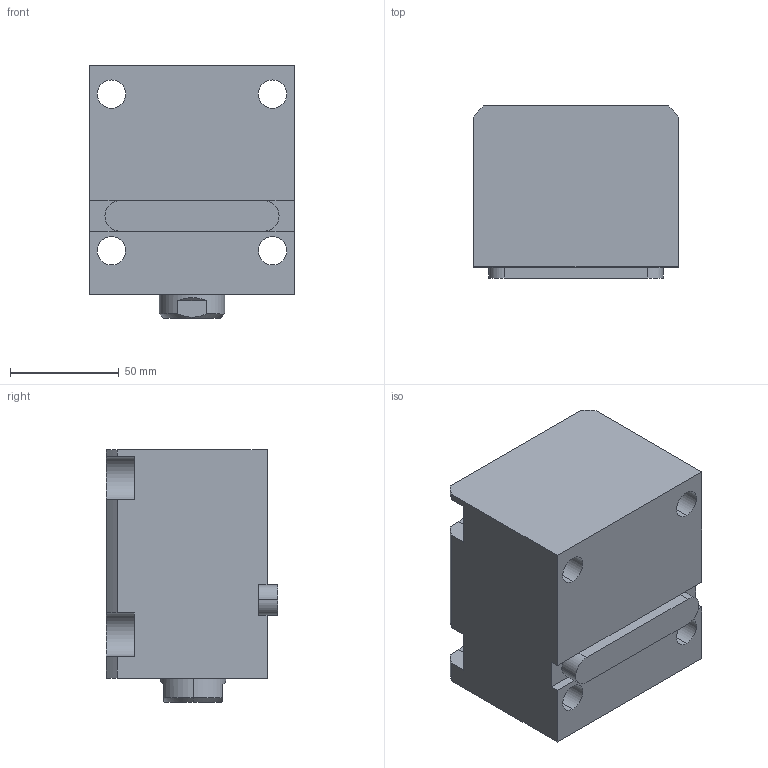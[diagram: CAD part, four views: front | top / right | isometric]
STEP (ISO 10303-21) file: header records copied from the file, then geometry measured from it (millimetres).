
FILE_DESCRIPTION (( 'STEP AP203' ), '1' );
FILE_NAME ('CHTB-LA50-45N.STEP', '2018-05-18T01:29:49', ( '' ), ( '' ), 'SwSTEP 2.0', 'SolidWorks 2015', '' );
FILE_SCHEMA (( 'CONFIG_CONTROL_DESIGN' ));
Length unit declared in the file: millimetre
Products named in the file (4): 活塞杆LA50-45N; CHTM-SDMA50QG; 掛极LA50-45N; CHTB-LA50-45N
Assembly tree (3 placements, depth 2):
  CHTB-LA50-45N
    掛极LA50-45N
    活塞杆LA50-45N
    CHTM-SDMA50QG
Bounding box: 94 x 79 x 116 mm (x, y, z)
Volume: 617953.9 mm3; surface area: 109789.5 mm2
Topology: 3 solids, 3 shells, 202 faces, 542 edges, 358 vertices
Faces by surface type: cylinder 96, plane 53, cone 23, torus 16, bspline 14
Entity records: 11255 total; most frequent: CARTESIAN_POINT 5992, ORIENTED_EDGE 1072, DIRECTION 958, EDGE_CURVE 536, AXIS2_PLACEMENT_3D 377, VERTEX_POINT 358, EDGE_LOOP 234, LINE 204
